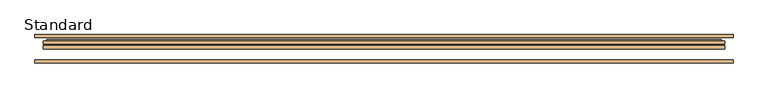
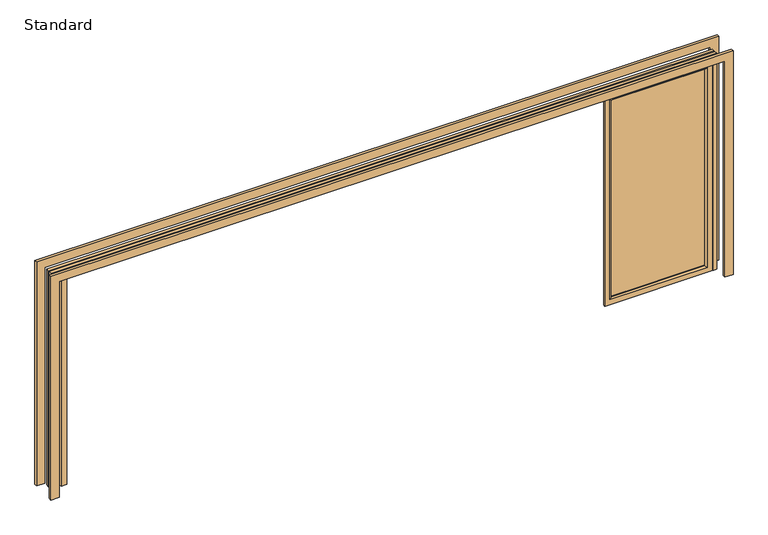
"""IFC4 building model written with IfcOpenShell, lengths in millimetres: door geometry, SMARTS_Visofold1000 : Standard."""

from ifc_helpers import new_model, si_unit, frame, origin, origin_with_axes, place, context, project, spatial, polyline, ellipse_curve, outline, extrude, faceted_brep, source, transform, mapped, element, save
from ifc_brep_helpers import plane_surface, cylinder_surface, advanced_brep


def standard_d7325560(model_context):
    return source(origin(), model_context, "Body", "SolidModel", [
        advanced_brep(
        [(2050.5, 13.3, 60.5), (2050.5, 17.4, 60.5), (2050.5, 17.4, 1939.5), (2050.5, 13.3, 1939.5), (1990.0, 17.4, 0.0), (1990.0, 0.0, 0.0), (1990.0, 0.0, 2000.0), (1990.0, 17.4, 2000.0), (2899.5, 17.4, 1939.5), (2899.5, 13.3, 1939.5), (2960.0, 0.0, 2000.0), (2960.0, 17.4, 2000.0), (2899.5, 17.4, 60.5), (2899.5, 13.3, 60.5), (2960.0, 0.0, 0.0), (2960.0, 17.4, 0.0), (2037.2, 0.0, 1952.8), (2912.8, 0.0, 1952.8), (2912.8, 0.0, 47.2), (2037.2, 0.0, 47.2), (2007.8691481, 34.8, 17.8691481), (2007.8691481, 17.4, 17.8691481), (2007.8691481, 17.4, 1982.1308519), (2007.8691481, 34.8, 1982.1308519), (2942.1308519, 17.4, 1982.1308519), (2942.1308519, 34.8, 1982.1308519), (2942.1308519, 17.4, 17.8691481), (2942.1308519, 34.8, 17.8691481), (2035.0, 17.4, 45.0), (2035.0, 34.8, 45.0), (2035.0, 34.8, 1955.0), (2035.0, 17.4, 1955.0), (2915.0, 34.8, 1955.0), (2915.0, 17.4, 1955.0), (2915.0, 34.8, 45.0), (2915.0, 17.4, 45.0)],
        [
            (0, 1),
            (1, 2),
            (2, 3),
            (3, 0),
            (4, 5),
            (5, 6),
            (6, 7),
            (7, 4),
            (2, 8),
            (8, 9),
            (9, 3),
            (6, 10),
            (10, 11),
            (11, 7),
            (8, 12),
            (12, 13),
            (13, 9),
            (10, 14),
            (14, 15),
            (15, 11),
            (12, 1),
            (0, 13),
            (5, 14),
            (16, 17),
            (17, 18),
            (18, 19),
            (19, 16),
            (4, 15),
            (19, 0, ellipse_curve(frame((2037.2, 13.3, 47.2), z_axis=(-0.70710678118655, 0.0, 0.7071067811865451), x_axis=(-0.7071067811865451, 0.0, -0.7071067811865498)), 18.8090404, 13.3)),
            (3, 16, ellipse_curve(frame((2037.2, 13.3, 1952.8), z_axis=(-0.7071067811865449, 0.0, -0.70710678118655), x_axis=(0.7071067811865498, 0.0, -0.7071067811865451)), 18.8090404, 13.3)),
            (9, 17, ellipse_curve(frame((2912.8, 13.3, 1952.8), z_axis=(-0.7071067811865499, 0.0, 0.707106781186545), x_axis=(-0.7071067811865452, 0.0, -0.7071067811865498)), 18.8090404, 13.3)),
            (13, 18, ellipse_curve(frame((2912.8, 13.3, 47.2), z_axis=(0.7071067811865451, 0.0, 0.7071067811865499), x_axis=(-0.7071067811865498, 0.0, 0.7071067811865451)), 18.8090404, 13.3)),
            (20, 21),
            (21, 22),
            (22, 23),
            (23, 20),
            (22, 24),
            (24, 25),
            (25, 23),
            (24, 26),
            (26, 27),
            (27, 25),
            (21, 26),
            (20, 27),
            (28, 29),
            (29, 30),
            (30, 31),
            (31, 28),
            (30, 32),
            (32, 33),
            (33, 31),
            (32, 34),
            (34, 35),
            (35, 33),
            (34, 29),
            (28, 35),
        ],
        [
            plane_surface(frame((2050.5, 17.4, 60.5), z_axis=(1.0, 0.0, 0.0), x_axis=(0.0, 0.0, 1.0))),
            plane_surface(frame((1990.0, 0.0, 0.0), z_axis=(-1.0, 0.0, 0.0), x_axis=(0.0, 0.0, 1.0))),
            plane_surface(frame((2050.5, 17.4, 1939.5), z_axis=(0.0, 0.0, -1.0), x_axis=(1.0, 0.0, 0.0))),
            plane_surface(frame((1990.0, 0.0, 2000.0), z_axis=(0.0, 0.0, 1.0), x_axis=(1.0, 0.0, 0.0))),
            plane_surface(frame((2899.5, 17.4, 1939.5), z_axis=(-1.0, 0.0, 0.0), x_axis=(0.0, 0.0, -1.0))),
            plane_surface(frame((2960.0, 0.0, 2000.0), z_axis=(1.0, 0.0, 0.0), x_axis=(0.0, 0.0, -1.0))),
            plane_surface(frame((2899.5, 17.4, 60.5), z_axis=(0.0, 0.0, 1.0), x_axis=(-1.0, 0.0, 0.0))),
            plane_surface(frame((2912.8, 0.0, 47.2), z_axis=(0.0, -1.0, 0.0), x_axis=(-1.0, 0.0, 0.0))),
            plane_surface(frame((2960.0, 0.0, 0.0), z_axis=(0.0, 0.0, -1.0), x_axis=(-1.0, 0.0, 0.0))),
            cylinder_surface(frame((2037.2, 13.3, 0.0), z_axis=(0.0, 0.0, -1.0), x_axis=(0.0, 1.0, 0.0)), 13.3),
            cylinder_surface(frame((1990.0, 13.3, 1952.8), z_axis=(-1.0, 0.0, 0.0), x_axis=(0.0, 1.0, 0.0)), 13.3),
            cylinder_surface(frame((2912.8, 13.3, 2000.0), z_axis=(0.0, 0.0, 1.0), x_axis=(0.0, 1.0, 0.0)), 13.3),
            cylinder_surface(frame((2960.0, 13.3, 47.2), z_axis=(1.0, 0.0, 0.0), x_axis=(0.0, 1.0, 0.0)), 13.3),
            plane_surface(frame((2007.8691481, 17.4, 17.8691481), z_axis=(-1.0, 0.0, 0.0), x_axis=(0.0, 0.0, 1.0))),
            plane_surface(frame((2007.8691481, 17.4, 1982.1308519), z_axis=(0.0, 0.0, 1.0), x_axis=(1.0, 0.0, 0.0))),
            plane_surface(frame((2942.1308519, 17.4, 1982.1308519), z_axis=(1.0, 0.0, 0.0), x_axis=(0.0, 0.0, -1.0))),
            plane_surface(frame((2960.0, 17.4, 0.0), z_axis=(0.0, 1.0, 0.0), x_axis=(-1.0, 0.0, 0.0))),
            plane_surface(frame((2942.1308519, 17.4, 17.8691481), z_axis=(0.0, 0.0, -1.0), x_axis=(-1.0, 0.0, 0.0))),
            plane_surface(frame((2035.0, 34.8, 45.0), z_axis=(1.0, 0.0, 0.0), x_axis=(0.0, 0.0, 1.0))),
            plane_surface(frame((2035.0, 34.8, 1955.0), z_axis=(0.0, 0.0, -1.0), x_axis=(1.0, 0.0, 0.0))),
            plane_surface(frame((2915.0, 34.8, 1955.0), z_axis=(-1.0, 0.0, 0.0), x_axis=(0.0, 0.0, -1.0))),
            plane_surface(frame((2915.0, 34.8, 45.0), z_axis=(0.0, 0.0, 1.0), x_axis=(-1.0, 0.0, 0.0))),
            plane_surface(frame((2915.0, 17.4, 45.0), z_axis=(0.0, 1.0, 0.0), x_axis=(-1.0, 0.0, 0.0))),
            plane_surface(frame((2942.1308519, 34.8, 17.8691481), z_axis=(0.0, 1.0, 0.0), x_axis=(-1.0, 0.0, 0.0))),
        ],
        [
            (0, [[1, 2, 3, 4]]),
            (1, [[5, 6, 7, 8]]),
            (2, [[-3, 9, 10, 11]]),
            (3, [[-7, 12, 13, 14]]),
            (4, [[-10, 15, 16, 17]]),
            (5, [[-13, 18, 19, 20]]),
            (6, [[-16, 21, -1, 22]]),
            (7, [[23, -18, -12, -6], [24, 25, 26, 27]]),
            (8, [[-19, -23, -5, 28]]),
            (9, [[29, -4, 30, -27]]),
            (10, [[-30, -11, 31, -24]]),
            (11, [[-31, -17, 32, -25]]),
            (12, [[-32, -22, -29, -26]]),
            (13, [[33, 34, 35, 36]]),
            (14, [[-35, 37, 38, 39]]),
            (15, [[-38, 40, 41, 42]]),
            (16, [[-14, -20, -28, -8], [43, -40, -37, -34]]),
            (17, [[-41, -43, -33, 44]]),
            (18, [[45, 46, 47, 48]]),
            (19, [[-47, 49, 50, 51]]),
            (20, [[-50, 52, 53, 54]]),
            (21, [[-53, 55, -45, 56]]),
            (22, [[-51, -54, -56, -48], [-21, -15, -9, -2]]),
            (23, [[-39, -42, -44, -36], [-55, -52, -49, -46]]),
        ],
    ),
        extrude(outline(polyline([(2050.5, 50.1484783), (2899.5, 50.1484783), (2899.5, 21.4), (2050.5, 21.4), (2050.5, 50.1484783)])), frame((0.0, 0.0, 60.5), z_axis=(0.0, 0.0, 1.0), x_axis=(1.0, 0.0, 0.0)), (0.0, 0.0, 1.0), 1879.0),
        extrude(outline(polyline([(-2910.0, 0.0), (-2910.0, 75.1750992), (-2860.0, 75.1750992), (-2860.0, 0.0), (-2910.0, 0.0)])), origin_with_axes(), (0.0, 0.0, 1.0), 2000.0),
        extrude(outline(polyline([(2058.6516063, -3000.0), (2058.6516063, 3000.0), (0.0, 3000.0), (0.0, 3075.0), (2133.6516063, 3075.0), (2133.6516063, -3075.0), (0.0, -3075.0), (0.0, -3000.0), (2058.6516063, -3000.0)])), frame((0.0, 100.0, 0.0), z_axis=(0.0, 1.0, 0.0), x_axis=(0.0, 0.0, 1.0)), (0.0, 0.0, 1.0), 25.0),
        extrude(outline(polyline([(2133.6516063, -3075.0), (0.0, -3075.0), (0.0, -3000.0), (2058.6516063, -3000.0), (2058.6516063, 3000.0), (0.0, 3000.0), (0.0, 3075.0), (2133.6516063, 3075.0), (2133.6516063, -3075.0)])), frame((0.0, -125.0, 0.0), z_axis=(0.0, 1.0, 0.0), x_axis=(0.0, 0.0, 1.0)), (0.0, 0.0, 1.0), 25.0),
        extrude(outline(polyline([(0.0, 2968.8), (0.0, 3000.0), (2058.6516063, 3000.0), (2058.6516063, -3000.0), (0.0, -3000.0), (0.0, -2968.8), (2027.4516063, -2968.8), (2027.4516063, 2968.8), (0.0, 2968.8)])), frame((0.0, 0.0, 0.0), z_axis=(0.0, 1.0, 0.0), x_axis=(0.0, 0.0, 1.0)), (0.0, 0.0, 1.0), 29.65),
        faceted_brep([(3000.0, 44.85, 0.0), (2968.8, 44.85, 0.0), (2968.8, 77.4, 0.0), (2948.3, 77.4, 0.0), (2948.3, 81.9, 0.0), (2970.6, 81.9, 0.0), (2970.6, 70.0, 0.0), (3000.0, 70.0, 0.0), (3000.0, 44.85, 2058.6516063), (-3000.0, 44.85, 2058.6516063), (-3000.0, 44.85, 0.0), (-2968.8, 44.85, 0.0), (-2968.8, 44.85, 2027.4516063), (2968.8, 44.85, 2027.4516063), (2968.8, 77.4, 2027.4516063), (-2968.8, 77.4, 2027.4516063), (-2968.8, 77.4, 0.0), (-2948.3, 77.4, 0.0), (-2948.3, 77.4, 2006.9516063), (2948.3, 77.4, 2006.9516063), (2948.3, 81.9, 2006.9516063), (-2948.3, 81.9, 2006.9516063), (-2948.3, 81.9, 0.0), (-2970.6, 81.9, 0.0), (-2970.6, 81.9, 2029.2516063), (2970.6, 81.9, 2029.2516063), (2970.6, 70.0, 2029.2516063), (-2970.6, 70.0, 2029.2516063), (-2970.6, 70.0, 0.0), (-3000.0, 70.0, 0.0), (-3000.0, 70.0, 2058.6516063), (3000.0, 70.0, 2058.6516063)], [[[0, 1, 2, 3, 4, 5, 6, 7]], [[1, 0, 8, 9, 10, 11, 12, 13]], [[2, 1, 13, 14]], [[3, 2, 14, 15, 16, 17, 18, 19]], [[4, 3, 19, 20]], [[5, 4, 20, 21, 22, 23, 24, 25]], [[6, 5, 25, 26]], [[7, 6, 26, 27, 28, 29, 30, 31]], [[0, 7, 31, 8]], [[10, 29, 28, 23, 22, 17, 16, 11]], [[9, 30, 29, 10]], [[27, 24, 23, 28]], [[21, 18, 17, 22]], [[15, 12, 11, 16]], [[8, 31, 30, 9]], [[14, 13, 12, 15]], [[26, 25, 24, 27]], [[20, 19, 18, 21]]]),
    ])


if __name__ == "__main__":
    model = new_model("IFC4")
    model_context = context("Model", 3, world=origin())
    ifc_project = project(units=[si_unit("LENGTHUNIT", "METRE", prefix="MILLI")], contexts=[model_context])
    site = spatial("IfcSite", under=ifc_project)
    building = spatial("IfcBuilding", under=site)
    placement = place(None, origin())
    standard_shape = standard_d7325560(model_context)
    element("IfcDoor", 1, ObjectType="SMARTS_Visofold1000 : Standard", at=placement, inside=building, context=model_context, shape_type="MappedRepresentation", body=[
        mapped(standard_shape, transform((0.0, 0.0, 0.0), x_axis=(1.0, 0.0, 0.0), y_axis=(0.0, 1.0, 0.0), z_axis=(0.0, 0.0, 1.0))),
    ])
    save(model, "model.ifc")
